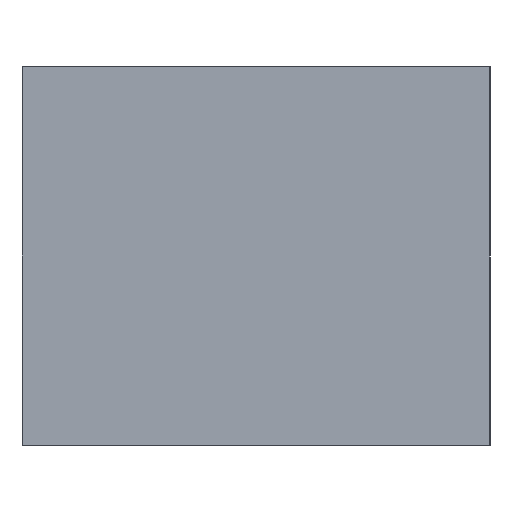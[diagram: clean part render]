
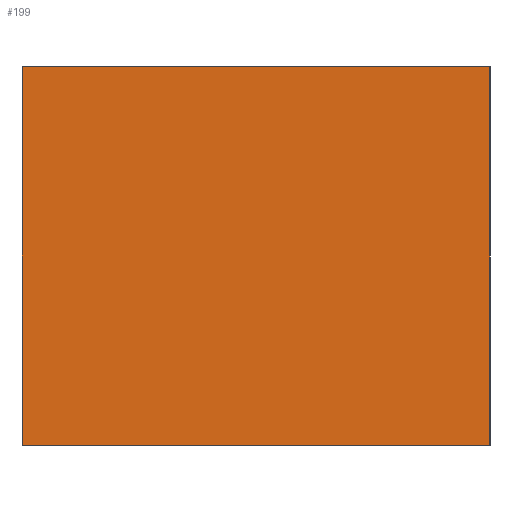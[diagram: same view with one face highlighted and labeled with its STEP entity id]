
A CAD part, left-side view. The second image highlights one B-rep face of the part: STEP entity #199.
In plain terms, the highlighted planar face has unit normal (-1, 0, 0).
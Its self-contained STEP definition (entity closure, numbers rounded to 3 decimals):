
#21 = EDGE_CURVE('',#22,#24,#26,.T.);
#22 = VERTEX_POINT('',#23);
#23 = CARTESIAN_POINT('',(-13.,4.45,7.2));
#24 = VERTEX_POINT('',#25);
#25 = CARTESIAN_POINT('',(-13.,-4.45,7.2));
#26 = SURFACE_CURVE('',#27,(#31,#43),.PCURVE_S1.);
#27 = LINE('',#28,#29);
#28 = CARTESIAN_POINT('',(-13.,4.45,7.2));
#29 = VECTOR('',#30,1.);
#30 = DIRECTION('',(0.,-1.,0.));
#31 = PCURVE('',#32,#37);
#32 = PLANE('',#33);
#33 = AXIS2_PLACEMENT_3D('',#34,#35,#36);
#34 = CARTESIAN_POINT('',(-13.,4.45,7.2));
#35 = DIRECTION('',(0.,0.,1.));
#36 = DIRECTION('',(1.,0.,0.));
#37 = DEFINITIONAL_REPRESENTATION('',(#38),#42);
#38 = LINE('',#39,#40);
#39 = CARTESIAN_POINT('',(0.,0.));
#40 = VECTOR('',#41,1.);
#41 = DIRECTION('',(0.,-1.));
#42 = ( GEOMETRIC_REPRESENTATION_CONTEXT(2) 
PARAMETRIC_REPRESENTATION_CONTEXT() REPRESENTATION_CONTEXT('2D SPACE',''
  ) );
#43 = PCURVE('',#44,#49);
#44 = PLANE('',#45);
#45 = AXIS2_PLACEMENT_3D('',#46,#47,#48);
#46 = CARTESIAN_POINT('',(-13.,4.45,0.));
#47 = DIRECTION('',(-1.,0.,0.));
#48 = DIRECTION('',(0.,0.,1.));
#49 = DEFINITIONAL_REPRESENTATION('',(#50),#54);
#50 = LINE('',#51,#52);
#51 = CARTESIAN_POINT('',(7.2,0.));
#52 = VECTOR('',#53,1.);
#53 = DIRECTION('',(0.,-1.));
#54 = ( GEOMETRIC_REPRESENTATION_CONTEXT(2) 
PARAMETRIC_REPRESENTATION_CONTEXT() REPRESENTATION_CONTEXT('2D SPACE',''
  ) );
#72 = PLANE('',#73);
#73 = AXIS2_PLACEMENT_3D('',#74,#75,#76);
#74 = CARTESIAN_POINT('',(-13.,-4.45,7.2));
#75 = DIRECTION('',(0.,-1.,0.));
#76 = DIRECTION('',(0.,0.,-1.));
#126 = PLANE('',#127);
#127 = AXIS2_PLACEMENT_3D('',#128,#129,#130);
#128 = CARTESIAN_POINT('',(-13.,4.45,7.2));
#129 = DIRECTION('',(0.,-1.,0.));
#130 = DIRECTION('',(0.,0.,-1.));
#199 = ADVANCED_FACE('',(#200),#44,.T.);
#200 = FACE_BOUND('',#201,.T.);
#201 = EDGE_LOOP('',(#202,#232,#253,#254));
#202 = ORIENTED_EDGE('',*,*,#203,.T.);
#203 = EDGE_CURVE('',#204,#206,#208,.T.);
#204 = VERTEX_POINT('',#205);
#205 = CARTESIAN_POINT('',(-13.,4.45,0.));
#206 = VERTEX_POINT('',#207);
#207 = CARTESIAN_POINT('',(-13.,-4.45,0.));
#208 = SURFACE_CURVE('',#209,(#213,#220),.PCURVE_S1.);
#209 = LINE('',#210,#211);
#210 = CARTESIAN_POINT('',(-13.,4.45,0.));
#211 = VECTOR('',#212,1.);
#212 = DIRECTION('',(0.,-1.,0.));
#213 = PCURVE('',#44,#214);
#214 = DEFINITIONAL_REPRESENTATION('',(#215),#219);
#215 = LINE('',#216,#217);
#216 = CARTESIAN_POINT('',(0.,0.));
#217 = VECTOR('',#218,1.);
#218 = DIRECTION('',(0.,-1.));
#219 = ( GEOMETRIC_REPRESENTATION_CONTEXT(2) 
PARAMETRIC_REPRESENTATION_CONTEXT() REPRESENTATION_CONTEXT('2D SPACE',''
  ) );
#220 = PCURVE('',#221,#226);
#221 = PLANE('',#222);
#222 = AXIS2_PLACEMENT_3D('',#223,#224,#225);
#223 = CARTESIAN_POINT('',(-3.989,4.45,0.));
#224 = DIRECTION('',(0.,0.,-1.));
#225 = DIRECTION('',(-1.,0.,0.));
#226 = DEFINITIONAL_REPRESENTATION('',(#227),#231);
#227 = LINE('',#228,#229);
#228 = CARTESIAN_POINT('',(9.011,0.));
#229 = VECTOR('',#230,1.);
#230 = DIRECTION('',(0.,-1.));
#231 = ( GEOMETRIC_REPRESENTATION_CONTEXT(2) 
PARAMETRIC_REPRESENTATION_CONTEXT() REPRESENTATION_CONTEXT('2D SPACE',''
  ) );
#232 = ORIENTED_EDGE('',*,*,#233,.T.);
#233 = EDGE_CURVE('',#206,#24,#234,.T.);
#234 = SURFACE_CURVE('',#235,(#239,#246),.PCURVE_S1.);
#235 = LINE('',#236,#237);
#236 = CARTESIAN_POINT('',(-13.,-4.45,0.));
#237 = VECTOR('',#238,1.);
#238 = DIRECTION('',(0.,0.,1.));
#239 = PCURVE('',#44,#240);
#240 = DEFINITIONAL_REPRESENTATION('',(#241),#245);
#241 = LINE('',#242,#243);
#242 = CARTESIAN_POINT('',(0.,-8.9));
#243 = VECTOR('',#244,1.);
#244 = DIRECTION('',(1.,0.));
#245 = ( GEOMETRIC_REPRESENTATION_CONTEXT(2) 
PARAMETRIC_REPRESENTATION_CONTEXT() REPRESENTATION_CONTEXT('2D SPACE',''
  ) );
#246 = PCURVE('',#72,#247);
#247 = DEFINITIONAL_REPRESENTATION('',(#248),#252);
#248 = LINE('',#249,#250);
#249 = CARTESIAN_POINT('',(7.2,0.));
#250 = VECTOR('',#251,1.);
#251 = DIRECTION('',(-1.,0.));
#252 = ( GEOMETRIC_REPRESENTATION_CONTEXT(2) 
PARAMETRIC_REPRESENTATION_CONTEXT() REPRESENTATION_CONTEXT('2D SPACE',''
  ) );
#253 = ORIENTED_EDGE('',*,*,#21,.F.);
#254 = ORIENTED_EDGE('',*,*,#255,.F.);
#255 = EDGE_CURVE('',#204,#22,#256,.T.);
#256 = SURFACE_CURVE('',#257,(#261,#268),.PCURVE_S1.);
#257 = LINE('',#258,#259);
#258 = CARTESIAN_POINT('',(-13.,4.45,0.));
#259 = VECTOR('',#260,1.);
#260 = DIRECTION('',(0.,0.,1.));
#261 = PCURVE('',#44,#262);
#262 = DEFINITIONAL_REPRESENTATION('',(#263),#267);
#263 = LINE('',#264,#265);
#264 = CARTESIAN_POINT('',(0.,0.));
#265 = VECTOR('',#266,1.);
#266 = DIRECTION('',(1.,0.));
#267 = ( GEOMETRIC_REPRESENTATION_CONTEXT(2) 
PARAMETRIC_REPRESENTATION_CONTEXT() REPRESENTATION_CONTEXT('2D SPACE',''
  ) );
#268 = PCURVE('',#126,#269);
#269 = DEFINITIONAL_REPRESENTATION('',(#270),#274);
#270 = LINE('',#271,#272);
#271 = CARTESIAN_POINT('',(7.2,0.));
#272 = VECTOR('',#273,1.);
#273 = DIRECTION('',(-1.,0.));
#274 = ( GEOMETRIC_REPRESENTATION_CONTEXT(2) 
PARAMETRIC_REPRESENTATION_CONTEXT() REPRESENTATION_CONTEXT('2D SPACE',''
  ) );
